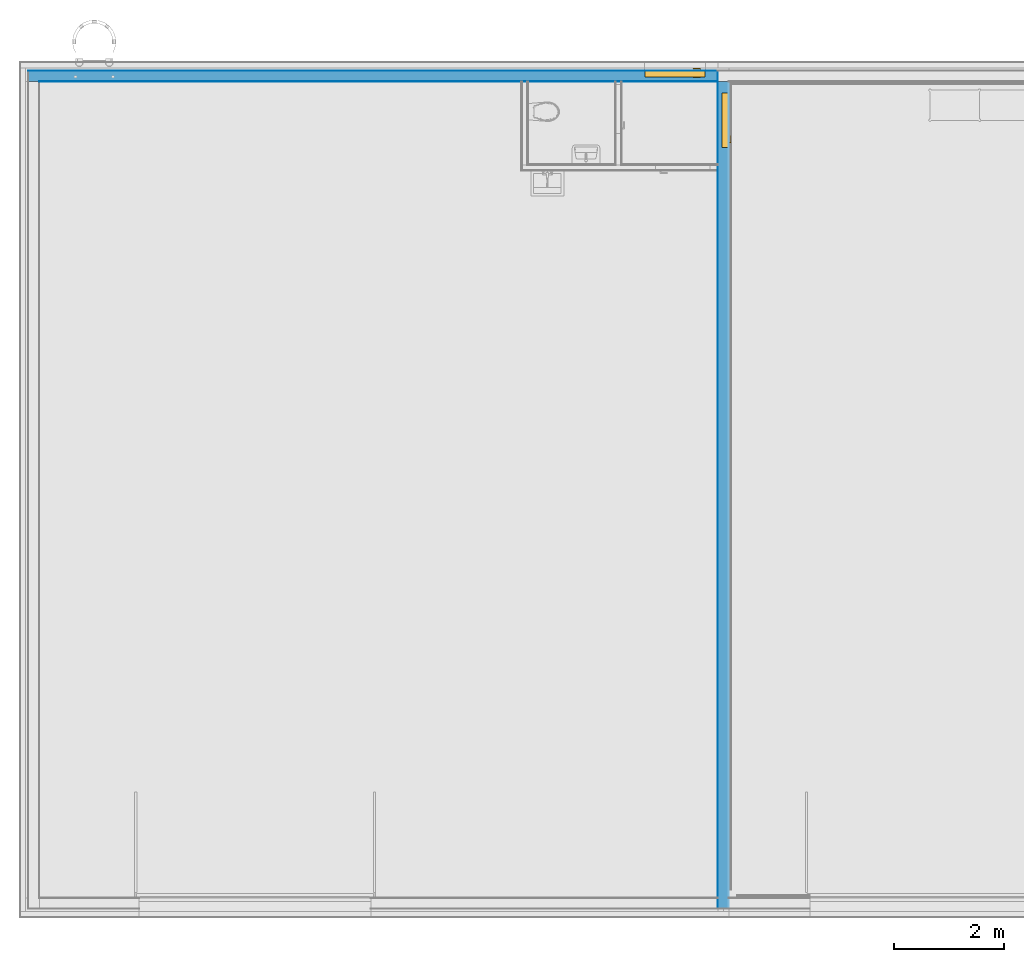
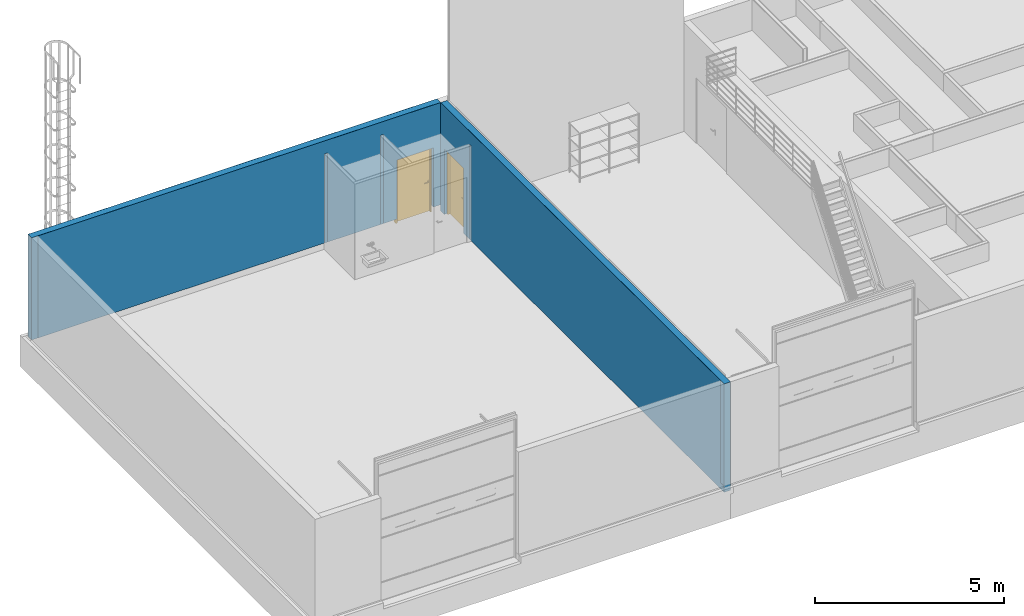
# One storey, part 11 of 67: 5 building element parts, 2 doors, 2 openings, 2 elements without a shape of their own, plus 1 element that does not belong to this part.
"""IFC4 building model written with IfcOpenShell, lengths in millimetres."""

from ifc_helpers import new_model, entity, si_unit, converted_unit, direction, frame, origin, place, context, subcontext, project, spatial, indexed_curve, outline, extrude, polygons, source, transform, mapped, material, constituent, constituent_set, type_object, type_shapes, element, fill, aggregate, save


model = new_model("IFC4")

# Units and contexts
model_context = context("Model", 3, precision=0.01, world=origin(), true_north=direction((0.0, 1.0)))
body_context = subcontext(model_context, "Body", "Model", "MODEL_VIEW")
ifc_project = project(units=[si_unit("LENGTHUNIT", "METRE", prefix="MILLI"), si_unit("AREAUNIT", "SQUARE_METRE"), si_unit("VOLUMEUNIT", "CUBIC_METRE"), converted_unit("PLANEANGLEUNIT", "DEGREE", entity("IfcPlaneAngleMeasure", 0.017453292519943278), si_unit("PLANEANGLEUNIT", "RADIAN"), dimensions=[0, 0, 0, 0, 0, 0, 0])], contexts=[model_context])

# Site, building, storey
site_placement = place(None, origin())
site = spatial("IfcSite", under=ifc_project, at=site_placement, Name="Tomtens navn", CompositionType="ELEMENT")
building_placement = place(site_placement, origin())
building = spatial("IfcBuilding", under=site, at=building_placement, Name="Byggets navn", CompositionType="ELEMENT")
storey_placement = place(building_placement, origin())
storey = spatial("IfcBuildingStorey", under=building, at=storey_placement, Name="Level 01", CompositionType="ELEMENT", Elevation=2.1993652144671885e-25)

# Door
ifc_material_1 = material(Name="Rustfritt Stål", Category="Metal")
ifc_constituent_1 = constituent(ifc_material_1, Name="Rustfritt Stål", Category="Metal", fraction=0.0018055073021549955)
ifc_material_2 = material(Name="Hvit", Category="Paint")
ifc_constituent_2 = constituent(ifc_material_2, Name="Hvit", Category="Paint", fraction=0.998194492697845)
ifc_constituent_set_1 = constituent_set(constituents=[ifc_constituent_1, ifc_constituent_2])
ifc_constituent_3 = constituent(ifc_material_1, Name="Rustfritt Stål", Category="Metal", fraction=0.0009035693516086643)
ifc_constituent_4 = constituent(ifc_material_2, Name="Panel", Category="Paint", fraction=0.4995482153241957)
ifc_constituent_5 = constituent(ifc_material_2, Name="Frame/Mullion", Category="Paint", fraction=0.4995482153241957)
ifc_constituent_set_2 = constituent_set(constituents=[ifc_constituent_3, ifc_constituent_4, ifc_constituent_5])
door_type_1 = type_object("IfcDoorType", Name="Enfløyet:ID13 Ståldør 10x21M EI30Sa", OperationType="SINGLE_SWING_LEFT", PredefinedType="DOOR", material=ifc_constituent_set_2)
shared_shape_1 = source(origin(), body_context, "Body", "SweptSolid", [
    extrude(outline(indexed_curve([(-33.33333333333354, -50.833333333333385), (24.166666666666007, -50.83333333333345), (24.16666666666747, 86.66666666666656), (9.16666666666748, 86.66666666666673), (9.166666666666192, -35.83333333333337), (-33.33333333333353, -35.83333333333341), (-33.33333333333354, -50.833333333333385)], self_intersect=False)), frame((868.6666666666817, 198.94103942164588, 980.5000000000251), z_axis=(0.0, 0.0, 1.0), x_axis=(0.0, 1.0, 0.0)), (0.0, 0.0, 1.0), 14.999999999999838),
    extrude(outline(indexed_curve([(-2.8000000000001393, -25.000000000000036), (2.799999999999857, -25.000000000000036), (2.8000000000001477, 25.000000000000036), (-2.799999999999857, 24.999999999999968), (-2.8000000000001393, -25.000000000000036)], self_intersect=False)), frame((912.0, 162.80000000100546, 850.9862950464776), z_axis=(0.0, 0.0, 1.0), x_axis=(0.0, -1.0, 0.0)), (0.0, 0.0, 1.0), 159.01370495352),
    extrude(outline(indexed_curve([(-50.83333333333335, -33.33333333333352), (-35.83333333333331, -33.33333333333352), (-35.83333333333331, 9.166666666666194), (86.6666666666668, 9.166666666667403), (86.66666666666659, 24.166666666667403), (-50.83333333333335, 24.166666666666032), (-50.83333333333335, -33.33333333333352)], self_intersect=False)), frame((868.6666666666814, 81.05896058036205, 980.5000000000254), z_axis=(0.0, 0.0, 1.0), x_axis=(-1.0, 0.0, 0.0)), (0.0, 0.0, 1.0), 14.999999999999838),
    extrude(outline(indexed_curve([(-24.999999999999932, -2.800000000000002), (25.00000000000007, -2.800000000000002), (25.0, 2.799999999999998), (-24.999999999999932, 2.799999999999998), (-24.999999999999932, -2.800000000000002)], self_intersect=False)), frame((912.0, 117.20000000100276, 850.9862950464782)), (0.0, 0.0, 1.0), 159.01370495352),
    extrude(outline(indexed_curve([(-456.9999999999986, -20.000000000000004), (456.9999999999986, -20.000000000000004), (456.9999999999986, 20.000000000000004), (-456.9999999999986, 20.000000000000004), (-456.9999999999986, -20.000000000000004)], self_intersect=False)), frame((505.0, 140.0000000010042, 10.0)), (0.0, 0.0, 1.0), 2042.0),
    extrude(outline(indexed_curve([(457.0, -1035.4999999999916), (494.99999999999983, -1035.4999999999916), (494.99999999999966, 1054.4999999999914), (-494.99999999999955, 1054.4999999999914), (-494.99999999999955, -1035.4999999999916), (-457.00000000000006, -1035.4999999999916), (-457.00000000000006, 1016.4999999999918), (456.99999999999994, 1016.4999999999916), (457.0, -1035.4999999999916)], self_intersect=False)), frame((505.0, 160.00000000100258, 1035.4999999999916), z_axis=(0.0, -1.0, 0.0), x_axis=(1.0, 0.0, 0.0)), (0.0, 0.0, 1.0), 99.99999999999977),
])
type_shapes(door_type_1, [shared_shape_1])
wall_1_placement = place(storey_placement, frame((51112.85352810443, 7861.46645692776, 0.0), z_axis=(0.0, 0.0, 1.0), x_axis=(0.0, 1.0, 0.0)))
opening_1_placement = place(wall_1_placement, frame((14805.0, 100.0, 0.0)))
door_1_placement = place(opening_1_placement, frame((0.0, -20.0, 0.0), z_axis=(0.0, 0.0, 1.0), x_axis=(-1.0, 0.0, 0.0)))
door_1 = element("IfcDoor", 1, at=door_1_placement, inside=storey, type_object=door_type_1, material=ifc_constituent_set_1, Name="Enfløyet:ID13 Ståldør 10x21M EI30Sa", OverallHeight=2110.000000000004, OverallWidth=1009.9999999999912, PredefinedType="DOOR", context=body_context, shape_type="MappedRepresentation", body=[
    mapped(shared_shape_1, transform((0.0, 0.0, 0.0), scale=1.0)),
])

ifc_constituent_6 = constituent(ifc_material_1, Name="Rustfritt Stål", Category="Metal", fraction=0.0016552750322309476)
ifc_material_3 = material(Name="NO_Maling - mørk grå", Category="Overflatebehandling")
ifc_constituent_7 = constituent(ifc_material_3, Name="NO_Maling - mørk grå", Category="Overflatebehandling", fraction=0.8062192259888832)
ifc_material_4 = material(Name="NO_Maling - sort", Category="Overflatebehandling")
ifc_constituent_8 = constituent(ifc_material_4, Name="NO_Maling - sort", Category="Overflatebehandling", fraction=0.19212549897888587)
ifc_constituent_set_3 = constituent_set(constituents=[ifc_constituent_6, ifc_constituent_7, ifc_constituent_8])
ifc_constituent_9 = constituent(ifc_material_1, Name="Rustfritt Stål", Category="Metal", fraction=0.0016552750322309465)
ifc_constituent_10 = constituent(ifc_material_3, Name="Panel", Category="Overflatebehandling", fraction=0.8062192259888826)
ifc_constituent_11 = constituent(ifc_material_4, Name="Frame/Mullion", Category="Overflatebehandling", fraction=0.19212549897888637)
ifc_constituent_set_4 = constituent_set(constituents=[ifc_constituent_9, ifc_constituent_10, ifc_constituent_11])
door_type_2 = type_object("IfcDoorType", Name="Enfløyet:YD02 Ytterdør 11x21M mørk grå", OperationType="SINGLE_SWING_LEFT", PredefinedType="DOOR", material=ifc_constituent_set_4)
shared_shape_2 = source(origin(), body_context, "Body", "SweptSolid", [
    extrude(outline(indexed_curve([(-33.33333333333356, -50.833333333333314), (24.16666666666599, -50.833333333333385), (24.16666666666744, 86.66666666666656), (9.166666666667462, 86.6666666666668), (9.166666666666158, -35.83333333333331), (-33.33333333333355, -35.83333333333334), (-33.33333333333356, -50.833333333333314)], self_intersect=False)), frame((968.6666666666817, 198.9410394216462, 980.5000000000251), z_axis=(0.0, 0.0, 1.0), x_axis=(0.0, 1.0, 0.0)), (0.0, 0.0, 1.0), 14.999999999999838),
    extrude(outline(indexed_curve([(-2.8000000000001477, -25.000000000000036), (2.7999999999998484, -25.000000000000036), (2.8000000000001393, 25.000000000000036), (-2.7999999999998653, 24.999999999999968), (-2.8000000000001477, -25.000000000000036)], self_intersect=False)), frame((1012.0, 162.8000000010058, 850.9862950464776), z_axis=(0.0, 0.0, 1.0), x_axis=(0.0, -1.0, 0.0)), (0.0, 0.0, 1.0), 159.01370495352),
    extrude(outline(indexed_curve([(-50.83333333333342, -33.33333333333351), (-35.83333333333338, -33.33333333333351), (-35.83333333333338, 9.166666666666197), (86.66666666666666, 9.166666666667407), (86.66666666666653, 24.1666666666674), (-50.83333333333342, 24.166666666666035), (-50.83333333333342, -33.33333333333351)], self_intersect=False)), frame((968.6666666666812, 81.05896058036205, 980.5000000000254), z_axis=(0.0, 0.0, 1.0), x_axis=(-1.0, 0.0, 0.0)), (0.0, 0.0, 1.0), 14.999999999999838),
    extrude(outline(indexed_curve([(-25.0, -2.800000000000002), (25.0, -2.800000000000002), (24.999999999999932, 2.799999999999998), (-25.0, 2.799999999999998), (-25.0, -2.800000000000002)], self_intersect=False)), frame((1012.0, 117.20000000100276, 850.9862950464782)), (0.0, 0.0, 1.0), 159.01370495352),
    extrude(outline(indexed_curve([(-506.9999999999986, -19.999999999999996), (506.9999999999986, -19.999999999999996), (506.9999999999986, 19.999999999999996), (-506.9999999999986, 19.999999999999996), (-506.9999999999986, -19.999999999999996)], self_intersect=False)), frame((555.0, 140.00000000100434, 10.0)), (0.0, 0.0, 1.0), 2042.0),
    extrude(outline(indexed_curve([(506.9999999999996, -1035.5000000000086), (544.9999999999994, -1035.5000000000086), (544.9999999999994, 1054.5000000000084), (-544.9999999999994, 1054.5000000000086), (-544.9999999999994, -1035.5000000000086), (-506.9999999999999, -1035.5000000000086), (-506.9999999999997, 1016.5000000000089), (506.9999999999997, 1016.5000000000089), (506.9999999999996, -1035.5000000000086)], self_intersect=False)), frame((555.0, 160.00000000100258, 1035.5000000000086), z_axis=(0.0, -1.0, 0.0), x_axis=(1.0, 0.0, 0.0)), (0.0, 0.0, 1.0), 99.99999999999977),
])
type_shapes(door_type_2, [shared_shape_2])
wall_2_placement = place(storey_placement, frame((38512.853528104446, 22961.46645692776, 200.0)))
opening_2_placement = place(wall_2_placement, frame((11170.0, -100.0, -200.0)))
door_2_placement = place(opening_2_placement, frame((0.0, 20.0, 0.0)))
door_2 = element("IfcDoor", 2, at=door_2_placement, inside=storey, type_object=door_type_2, material=ifc_constituent_set_3, Name="Enfløyet:YD02 Ytterdør 11x21M mørk grå", OverallHeight=2110.000000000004, OverallWidth=1109.9999999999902, PredefinedType="DOOR", context=body_context, shape_type="MappedRepresentation", body=[
    mapped(shared_shape_2, transform((0.0, 0.0, 0.0), scale=1.0)),
])

# Wall, opening
wall_type = type_object("IfcWallType", Name="Basic Wall:YV02 Sandwichvegg 200", PredefinedType="STANDARD")
wall_1 = element("IfcWall", 3, at=wall_1_placement, inside=storey, type_object=wall_type, Name="Basic Wall:YV02 Sandwichvegg 200", PredefinedType="NOTDEFINED")
opening_1 = element("IfcOpeningElement", 4, at=opening_1_placement, cuts=wall_1, Name="Enfløyet:ID13 Ståldør 10x21M EI30Sa:1", PredefinedType="OPENING", context=body_context, shape_type="SweptSolid", body=[
    extrude(outline(indexed_curve([(0.0, -8.121503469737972e-13), (2110.000000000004, -8.121503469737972e-13), (2110.000000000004, 1009.9999999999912), (0.0, 1009.9999999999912), (0.0, -8.121503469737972e-13)], self_intersect=False)), frame((0.0, 0.0, 0.0), z_axis=(0.0, -1.0, 0.0), x_axis=(0.0, 0.0, 1.0)), (0.0, 0.0, 1.0), 200.0),
])

fill(opening_1, door_1)

# Building element part
ifc_material_5 = material(Name="Metall - Malt overflate - Mørk Grå, Matt", Category="Unassigned")
building_element_part_1_placement = place(wall_1_placement, frame((0.0, 100.0, 0.0)))
building_element_part_1 = element("IfcBuildingElementPart", 5, at=building_element_part_1_placement, material=ifc_material_5, Name="Metall - Malt overflate - Mørk Grå, Matt", context=body_context, shape_type="Tessellation", body=[
    polygons([(1.8189894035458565e-12, -1.7422625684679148e-12, 200.0), (1.8189894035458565e-12, -2.000000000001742, 200.0), (198.0000000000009, -2.0000000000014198, 200.0), (198.0000000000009, -1.4196368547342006e-12, 200.0), (14999.99999999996, -1.9999999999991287, 7.331217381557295e-26), (14805.0, -1.9999999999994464, 7.331217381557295e-26), (14805.0, -6.722488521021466e-12, 2.1993652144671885e-25), (14999.99999999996, -6.404751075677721e-12, 2.1993652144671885e-25), (14804.999999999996, -1.9999999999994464, 199.99999999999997), (14805.0, -1.9999999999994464, 2110.000000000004), (14805.000000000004, -6.722488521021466e-12, 2110.000000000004), (14805.0, -6.722488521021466e-12, 200.0), (13795.000000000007, -2.0000000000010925, 199.99999999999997), (13795.000000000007, -2.0000000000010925, 7.331217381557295e-26), (13795.000000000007, -8.36820554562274e-12, 2.1993652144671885e-25), (13795.000000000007, -8.36820554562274e-12, 200.0000000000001), (13795.000000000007, -8.36820554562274e-12, 2110.000000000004), (13795.000000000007, -2.0000000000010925, 2110.000000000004), (1.8189894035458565e-12, -2.000000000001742, 7.331217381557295e-26), (1.8189894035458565e-12, -1.7422625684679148e-12, 2.1993652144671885e-25), (13379.000000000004, 5.505869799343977e-12, 2.1993652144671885e-25), (13392.000000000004, 5.527052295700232e-12, 1.466243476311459e-25), (13392.000000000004, -2.000000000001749, 7.331217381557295e-26), (14999.99999999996, -1.9999999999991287, 200.0), (14999.99999999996, -6.404751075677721e-12, 200.0), (13392.000000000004, -2.000000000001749, 200.0), (13392.000000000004, -2.000000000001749, 3079.9999999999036), (13487.0, -2.0000000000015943, 3079.9999999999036), (13487.0, -2.0000000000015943, 200.0), (13487.0, -2.0000000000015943, 7.331217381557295e-26), (15197.999999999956, -1.999999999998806, 200.0), (15197.999999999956, -1.999999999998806, 3499.999999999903), (198.0000000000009, -2.0000000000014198, 3499.999999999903), (13487.0, 5.681847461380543e-12, 3079.9999999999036), (13487.0, 5.681847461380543e-12, 200.0), (13487.0, 5.681847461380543e-12, 1.466243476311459e-25), (13392.000000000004, 5.527052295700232e-12, 200.0), (13392.000000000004, 5.527052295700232e-12, 3079.9999999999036), (15197.999999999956, -6.0821253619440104e-12, 200.0), (15197.999999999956, -6.0821253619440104e-12, 3499.999999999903), (200.0, -1.416378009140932e-12, 3499.9999999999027), (198.0000000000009, -1.4196368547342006e-12, 3499.999999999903), (13500.0, 5.703029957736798e-12, 2.1993652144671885e-25)], [[[1, 2, 3, 4]], [[5, 6, 7, 8]], [[6, 9, 10, 11, 12, 7]], [[13, 14, 15, 16, 17, 18]], [[19, 20, 21, 22, 23]], [[19, 2, 1, 20]], [[24, 5, 8, 25]], [[2, 19, 23, 26, 27, 28, 29, 30, 14, 13, 18, 10, 9, 6, 5, 24, 31, 32, 33, 3]], [[30, 29, 28, 34, 35, 36]], [[26, 23, 22, 37, 38, 27]], [[39, 31, 24, 25]], [[10, 18, 17, 11]], [[33, 32, 40, 41, 42]], [[31, 39, 40, 32]], [[3, 33, 42, 4]], [[28, 27, 38, 34]], [[21, 20, 1, 4, 42, 41, 40, 39, 25, 8, 7, 12, 11, 17, 16, 15, 43, 36, 35, 34, 38, 37, 22]], [[43, 15, 14, 30, 36]]], closed=True),
])

building_element_part_2_placement = place(wall_1_placement, frame((0.0, -98.0, 0.0)))
building_element_part_2 = element("IfcBuildingElementPart", 6, at=building_element_part_2_placement, material=ifc_material_1, Name="Rustfritt Stål", context=body_context, shape_type="Tessellation", body=[
    polygons([(14805.0, 5.534690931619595e-13, 7.331217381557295e-26), (14999.99999999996, 8.712065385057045e-13, 7.331217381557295e-26), (14999.99999999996, -1.9999999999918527, 2.1993652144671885e-25), (14953.99999999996, -1.9999999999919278, 2.1993652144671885e-25), (14805.0, -1.9999999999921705, 2.1993652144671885e-25), (14804.999999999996, 5.534690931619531e-13, 200.00000000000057), (14805.0, -1.9999999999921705, 200.0000000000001), (14805.0, -1.9999999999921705, 2110.000000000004), (14805.0, 5.534690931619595e-13, 2110.000000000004), (13795.000000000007, -1.0922479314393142e-12, 7.331217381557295e-26), (13795.000000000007, -1.0922479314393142e-12, 200.00000000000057), (13795.000000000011, 6.183709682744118e-12, 2110.0000000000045), (13795.000000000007, -1.9999999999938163, 2110.000000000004), (13795.000000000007, -1.9999999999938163, 200.0), (13795.000000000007, -1.9999999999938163, 2.1993652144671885e-25), (2.7284841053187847e-12, -1.7422625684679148e-12, 7.331217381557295e-26), (349.99999999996, -1.999999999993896, 2.1993652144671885e-25), (2.7284841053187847e-12, -1.9999999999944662, 2.1993652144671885e-25), (9.094947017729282e-13, -1.742262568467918e-12, 200.0), (9.094947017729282e-13, -1.9999999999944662, 199.99999999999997), (2.7284841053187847e-12, -1.9999999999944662, 3499.999999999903), (2.7284841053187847e-12, -1.7422625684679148e-12, 3499.999999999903), (14999.99999999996, 8.712065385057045e-13, 200.0), (14999.99999999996, 8.712065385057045e-13, 3499.999999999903), (14999.99999999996, -1.9999999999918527, 3499.999999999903), (14999.99999999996, -1.9999999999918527, 200.0), (14953.99999999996, -1.9999999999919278, 3499.999999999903), (349.9999999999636, -1.999999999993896, 3499.999999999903), (199.99999999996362, -1.9999999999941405, 3499.999999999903)], [[[1, 2, 3, 4, 5]], [[6, 1, 5, 7, 8, 9]], [[10, 11, 12, 13, 14, 15]], [[16, 10, 15, 17, 18]], [[19, 16, 18, 20, 21, 22]], [[2, 23, 24, 25, 26, 3]], [[11, 10, 16, 19, 22, 24, 23, 2, 1, 6, 9, 12]], [[18, 17, 15, 14, 13, 8, 7, 5, 4, 3, 26, 25, 27, 28, 29, 21, 20]], [[12, 9, 8, 13]], [[24, 22, 21, 29, 28, 27, 25]]], closed=True),
])

ifc_material_6 = material(Name="NO_Isolasjon - Fast", Category="Isolasjon")
building_element_part_3_placement = place(wall_1_placement, frame((0.0, 98.0, 0.0)))
building_element_part_3 = element("IfcBuildingElementPart", 7, at=building_element_part_3_placement, material=ifc_material_6, Name="NO_Isolasjon - Fast", context=body_context, shape_type="Tessellation", body=[
    polygons([(1.8189894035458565e-12, -1.7422625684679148e-12, 200.0), (2.7284841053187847e-12, -196.000000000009, 200.0), (2.000000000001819, -196.00000000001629, 200.0), (2.0000000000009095, -1.7390037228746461e-12, 200.0), (13795.000000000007, -1.0922479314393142e-12, 200.00000000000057), (13795.000000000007, -1.0922479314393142e-12, 7.331217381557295e-26), (1.8189894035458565e-12, -1.7422625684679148e-12, 7.331217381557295e-26), (2.0000000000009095, -1.7390037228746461e-12, 3499.999999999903), (15001.99999999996, 8.744653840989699e-13, 3499.999999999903), (15001.99999999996, 8.744653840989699e-13, 200.0), (14999.99999999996, 8.712065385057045e-13, 200.0), (14999.99999999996, 8.712065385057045e-13, 7.331217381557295e-26), (14805.0, 5.534690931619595e-13, 7.331217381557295e-26), (14804.999999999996, 5.534690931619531e-13, 200.00000000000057), (14805.0, 5.534690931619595e-13, 2110.000000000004), (13795.000000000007, -1.0922479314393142e-12, 2110.000000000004), (14999.99999999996, -196.0000000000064, 7.331217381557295e-26), (14804.999999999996, -196.00000000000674, 7.331217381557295e-26), (14804.999999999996, -196.00000000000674, 199.99999999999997), (14805.0, -196.00000000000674, 2110.000000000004), (13795.000000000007, -196.00000000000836, 2110.0000000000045), (13795.000000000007, -196.00000000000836, 199.99999999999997), (13795.000000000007, -196.00000000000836, 7.331217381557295e-26), (2.7284841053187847e-12, -196.000000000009, 7.331217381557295e-26), (14999.99999999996, -196.0000000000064, 200.0), (15001.99999999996, -196.0000000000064, 200.0), (15001.99999999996, -196.0000000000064, 3499.999999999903), (2.000000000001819, -196.000000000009, 3499.999999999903)], [[[1, 2, 3, 4]], [[5, 6, 7, 1, 4, 8, 9, 10, 11, 12, 13, 14, 15, 16]], [[13, 12, 17, 18]], [[14, 13, 18, 19, 20, 15]], [[6, 5, 16, 21, 22, 23]], [[7, 6, 23, 24]], [[1, 7, 24, 2]], [[12, 11, 25, 17]], [[2, 24, 23, 22, 21, 20, 19, 18, 17, 25, 26, 27, 28, 3]], [[10, 26, 25, 11]], [[16, 15, 20, 21]], [[9, 8, 28, 27]], [[26, 10, 9, 27]], [[8, 4, 3, 28]]], closed=True),
])

aggregate(wall_1, [building_element_part_1, building_element_part_2, building_element_part_3])

# Wall, opening
wall_2 = element("IfcWall", 8, at=wall_2_placement, inside=storey, type_object=wall_type, Name="Basic Wall:YV02 Sandwichvegg 200", PredefinedType="NOTDEFINED")
opening_2 = element("IfcOpeningElement", 9, at=opening_2_placement, cuts=wall_2, Name="Enfløyet:YD02 Ytterdør 11x21M mørk grå:1", PredefinedType="OPENING", context=body_context, shape_type="SweptSolid", body=[
    extrude(outline(indexed_curve([(0.0, -4.207347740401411e-32), (2110.000000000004, -4.207347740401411e-32), (2110.000000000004, 1109.9999999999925), (0.0, 1109.9999999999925), (0.0, -4.207347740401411e-32)], self_intersect=False)), frame((0.0, 0.0, 0.0), z_axis=(0.0, 1.0, 0.0), x_axis=(0.0, 0.0, 1.0)), (0.0, 0.0, 1.0), 200.0),
])

fill(opening_2, door_2)

# Building element part
building_element_part_4_placement = place(wall_2_placement, frame((0.0, 98.0, 0.0)))
building_element_part_4 = element("IfcBuildingElementPart", 10, at=building_element_part_4_placement, material=ifc_material_5, Name="Metall - Malt overflate - Mørk Grå, Matt", context=body_context, shape_type="Tessellation", body=[
    polygons([(3.169830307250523e-12, 0.0, 0.0), (11170.000000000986, -3.637978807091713e-12, 0.0), (11170.000000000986, -3.637978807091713e-12, 1910.000000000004), (12280.000000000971, -3.637978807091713e-12, 1910.000000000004), (12280.000000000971, -3.637978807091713e-12, 0.0), (12500.000000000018, -3.637978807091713e-12, 0.0), (12500.000000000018, -3.637978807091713e-12, 3299.999999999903), (3.169830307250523e-12, 0.0, 3299.999999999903), (3.1701052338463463e-12, 2.0, 0.0), (11170.000000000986, 1.999999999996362, 0.0), (200.00000000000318, 2.0, 3299.999999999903), (3.1701052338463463e-12, 2.0, 3299.999999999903), (12500.000000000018, 1.999999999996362, 3299.999999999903), (12500.000000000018, 1.999999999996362, 0.0), (11170.000000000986, 1.999999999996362, 1910.000000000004), (12280.000000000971, 1.999999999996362, 1910.000000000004), (12280.000000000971, 1.999999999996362, 0.0)], [[[1, 2, 3, 4, 5, 6, 7, 8]], [[9, 10, 2, 1]], [[11, 12, 8, 7, 13]], [[12, 9, 1, 8]], [[14, 13, 7, 6]], [[10, 15, 3, 2]], [[15, 16, 4, 3]], [[16, 17, 5, 4]], [[17, 14, 6, 5]], [[12, 11, 13, 14, 17, 16, 15, 10, 9]]], closed=True),
])

building_element_part_5_placement = place(wall_2_placement, frame((198.0, -100.0, 0.0)))
building_element_part_5 = element("IfcBuildingElementPart", 11, at=building_element_part_5_placement, material=ifc_material_1, Name="Rustfritt Stål", context=body_context, shape_type="Tessellation", body=[
    polygons([(-4.1330701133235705e-12, 2.0, 3299.999999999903), (12302.000000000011, 1.999999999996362, 3299.999999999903), (12302.000000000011, 1.999999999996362, 0.0), (12082.000000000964, 1.999999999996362, 0.0), (12082.000000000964, 1.999999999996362, 1910.000000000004), (10972.000000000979, 1.999999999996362, 1910.000000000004), (10972.000000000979, 1.999999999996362, 0.0), (10549.499999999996, 1.999999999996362, 0.0), (10549.499999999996, 1.999999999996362, 2879.9999999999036), (10454.500000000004, 1.999999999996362, 2879.9999999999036), (10454.500000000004, 1.999999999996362, 0.0), (8849.499999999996, 1.999999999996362, 0.0), (8849.499999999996, 1.999999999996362, 2879.9999999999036), (8754.499999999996, 1.999999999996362, 2879.9999999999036), (8754.499999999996, 1.999999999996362, 3.979039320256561e-13), (-4.1330701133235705e-12, 2.0, 0.0), (1.9999999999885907, 3.637978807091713e-12, 0.0), (-4.133345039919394e-12, 3.637978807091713e-12, 0.0), (8754.499999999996, 0.0, 0.0), (-4.133345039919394e-12, 3.637978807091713e-12, 3299.999999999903), (1.9999999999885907, 3.637978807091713e-12, 3299.999999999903), (12302.000000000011, 0.0, 3299.999999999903), (12302.000000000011, 0.0, 0.0), (10972.000000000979, 0.0, 1910.000000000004), (10972.000000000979, 0.0, 0.0), (12082.000000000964, 0.0, 1910.000000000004), (12082.000000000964, 0.0, 0.0), (8754.499999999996, 0.0, 2879.9999999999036), (8849.499999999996, 0.0, 2879.9999999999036), (8849.499999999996, 0.0, 0.0), (10454.500000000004, 0.0, 0.0), (10454.500000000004, 0.0, 2879.9999999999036), (10549.499999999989, 0.0, 2879.9999999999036), (10549.499999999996, 0.0, 0.0)], [[[1, 2, 3, 4, 5, 6, 7, 8, 9, 10, 11, 12, 13, 14, 15, 16]], [[17, 18, 16, 15, 19]], [[2, 1, 20, 21, 22]], [[3, 2, 22, 23]], [[7, 6, 24, 25]], [[6, 5, 26, 24]], [[5, 4, 27, 26]], [[4, 3, 23, 27]], [[18, 17, 19, 28, 29, 30, 31, 32, 33, 34, 25, 24, 26, 27, 23, 22, 21, 20]], [[18, 20, 1, 16]], [[29, 13, 12, 30]], [[13, 29, 28, 14]], [[14, 28, 19, 15]], [[10, 32, 31, 11]], [[32, 10, 9, 33]], [[33, 9, 8, 34]], [[30, 12, 11, 31]], [[7, 25, 34, 8]]], closed=True),
])

building_element_part_6_placement = place(wall_2_placement, frame((2.0, -98.0, 0.0)))
building_element_part_6 = element("IfcBuildingElementPart", 12, at=building_element_part_6_placement, material=ifc_material_6, Name="NO_Isolasjon - Fast", context=body_context, shape_type="Tessellation", body=[
    polygons([(11168.000000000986, 195.99999999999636, 0.0), (3.169830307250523e-12, 196.0, 0.0), (3.169830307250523e-12, 196.0, 3299.999999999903), (12498.000000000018, 195.99999999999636, 3299.999999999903), (12498.000000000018, 195.99999999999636, 0.0), (12278.000000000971, 195.99999999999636, 0.0), (12278.000000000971, 195.99999999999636, 1910.000000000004), (11168.000000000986, 195.99999999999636, 1910.000000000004), (3.1428875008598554e-12, 0.0, 0.0), (11168.000000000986, -3.637978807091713e-12, 0.0), (11168.000000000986, -3.637978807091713e-12, 1910.000000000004), (12278.000000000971, -3.637978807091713e-12, 1910.000000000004), (12278.000000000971, -3.637978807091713e-12, 0.0), (12498.000000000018, -3.637978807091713e-12, 0.0), (12498.000000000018, -3.637978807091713e-12, 3299.999999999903), (3.1428875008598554e-12, 0.0, 3299.999999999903)], [[[1, 2, 3, 4, 5, 6, 7, 8]], [[9, 10, 11, 12, 13, 14, 15, 16]], [[9, 2, 1, 10]], [[15, 4, 3, 16]], [[14, 5, 4, 15]], [[10, 1, 8, 11]], [[11, 8, 7, 12]], [[6, 13, 12, 7]], [[5, 14, 13, 6]], [[2, 9, 16, 3]]], closed=True),
])

aggregate(wall_2, [building_element_part_4, building_element_part_5, building_element_part_6])

save(model, "model.ifc")
